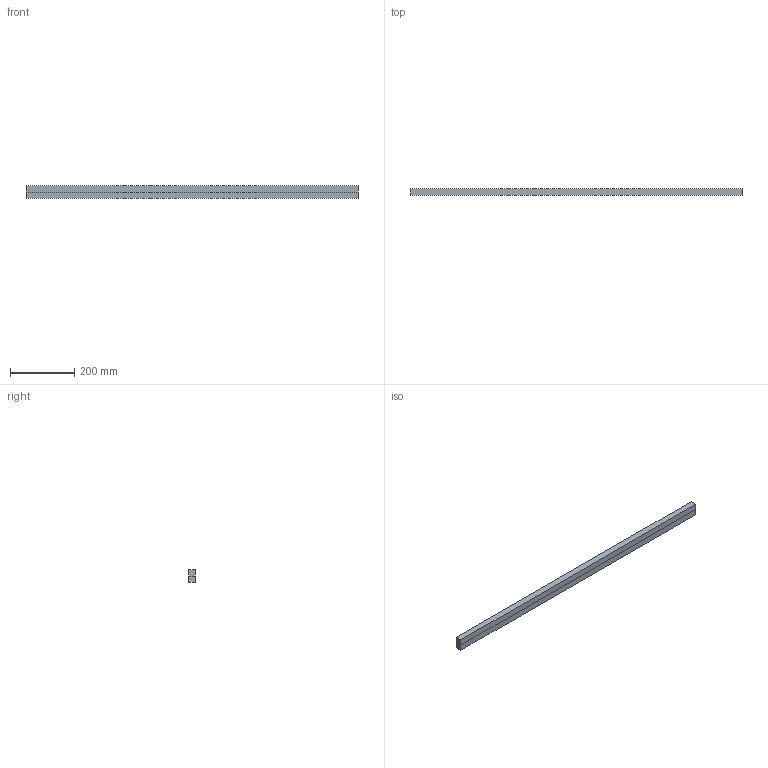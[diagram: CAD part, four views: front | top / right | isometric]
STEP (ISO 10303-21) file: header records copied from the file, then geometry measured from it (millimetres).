
FILE_DESCRIPTION(('Open CASCADE Model'),'2;1');
FILE_NAME('Open CASCADE Shape Model','2025-02-21T15:43:40',('Author'),( 'Open CASCADE'),'Open CASCADE STEP processor 7.8','Open CASCADE 7.8' ,'Unknown');
FILE_SCHEMA(('AUTOMOTIVE_DESIGN { 1 0 10303 214 1 1 1 1 }'));
Length unit declared in the file: millimetre
Products named in the file (2): Compound1; Solid1
Assembly tree (2 placements, depth 2):
  Compound1
    Solid1  x2
Bounding box: 1034 x 20 x 40 mm (x, y, z)
Volume: 827200 mm3; surface area: 167040 mm2
Topology: 2 solids, 2 shells, 12 faces, 24 edges, 16 vertices
Faces by surface type: plane 12
Entity records: 192 total; most frequent: DIRECTION 30, CARTESIAN_POINT 29, ORIENTED_EDGE 24, EDGE_CURVE 12, LINE 12, VECTOR 12, AXIS2_PLACEMENT_3D 9, VERTEX_POINT 8
